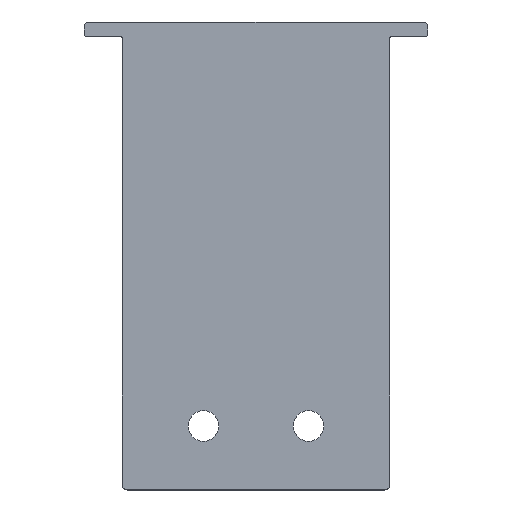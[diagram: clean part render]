
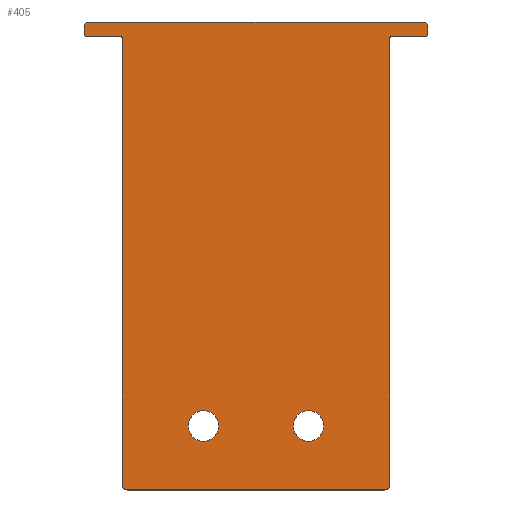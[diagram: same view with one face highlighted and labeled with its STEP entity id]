
A CAD part, top view. The second image highlights one B-rep face of the part: STEP entity #405.
In plain terms, the highlighted planar face has unit normal (0, 0, 1).
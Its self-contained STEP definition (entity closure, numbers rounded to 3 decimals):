
#31=PLANE('',#458);
#34=LINE('',#600,#66);
#38=LINE('',#612,#70);
#42=LINE('',#624,#74);
#46=LINE('',#636,#78);
#50=LINE('',#648,#82);
#54=LINE('',#660,#86);
#58=LINE('',#672,#90);
#62=LINE('',#684,#94);
#66=VECTOR('',#479,1000.);
#70=VECTOR('',#491,1000.);
#74=VECTOR('',#503,1000.);
#78=VECTOR('',#515,1000.);
#82=VECTOR('',#527,1000.);
#86=VECTOR('',#539,1000.);
#90=VECTOR('',#551,1000.);
#94=VECTOR('',#563,1000.);
#178=ORIENTED_EDGE('',*,*,#254,.F.);
#179=ORIENTED_EDGE('',*,*,#255,.F.);
#180=ORIENTED_EDGE('',*,*,#204,.T.);
#181=ORIENTED_EDGE('',*,*,#208,.T.);
#182=ORIENTED_EDGE('',*,*,#211,.T.);
#183=ORIENTED_EDGE('',*,*,#214,.T.);
#184=ORIENTED_EDGE('',*,*,#217,.T.);
#185=ORIENTED_EDGE('',*,*,#220,.T.);
#186=ORIENTED_EDGE('',*,*,#223,.T.);
#187=ORIENTED_EDGE('',*,*,#226,.T.);
#188=ORIENTED_EDGE('',*,*,#229,.T.);
#189=ORIENTED_EDGE('',*,*,#232,.T.);
#190=ORIENTED_EDGE('',*,*,#235,.T.);
#191=ORIENTED_EDGE('',*,*,#238,.T.);
#192=ORIENTED_EDGE('',*,*,#241,.T.);
#193=ORIENTED_EDGE('',*,*,#244,.T.);
#194=ORIENTED_EDGE('',*,*,#247,.T.);
#195=ORIENTED_EDGE('',*,*,#250,.T.);
#204=EDGE_CURVE('',#258,#259,#296,.T.);
#208=EDGE_CURVE('',#259,#262,#34,.T.);
#211=EDGE_CURVE('',#262,#264,#298,.T.);
#214=EDGE_CURVE('',#264,#266,#38,.T.);
#217=EDGE_CURVE('',#266,#268,#300,.T.);
#220=EDGE_CURVE('',#268,#270,#42,.T.);
#223=EDGE_CURVE('',#270,#272,#302,.T.);
#226=EDGE_CURVE('',#272,#274,#46,.T.);
#229=EDGE_CURVE('',#274,#276,#304,.T.);
#232=EDGE_CURVE('',#276,#278,#50,.T.);
#235=EDGE_CURVE('',#278,#280,#306,.T.);
#238=EDGE_CURVE('',#280,#282,#54,.T.);
#241=EDGE_CURVE('',#282,#284,#308,.T.);
#244=EDGE_CURVE('',#284,#286,#58,.T.);
#247=EDGE_CURVE('',#286,#288,#310,.T.);
#250=EDGE_CURVE('',#288,#258,#62,.T.);
#254=EDGE_CURVE('',#292,#292,#314,.T.);
#255=EDGE_CURVE('',#293,#293,#315,.T.);
#258=VERTEX_POINT('',#592);
#259=VERTEX_POINT('',#593);
#262=VERTEX_POINT('',#601);
#264=VERTEX_POINT('',#607);
#266=VERTEX_POINT('',#613);
#268=VERTEX_POINT('',#619);
#270=VERTEX_POINT('',#625);
#272=VERTEX_POINT('',#631);
#274=VERTEX_POINT('',#637);
#276=VERTEX_POINT('',#643);
#278=VERTEX_POINT('',#649);
#280=VERTEX_POINT('',#655);
#282=VERTEX_POINT('',#661);
#284=VERTEX_POINT('',#667);
#286=VERTEX_POINT('',#673);
#288=VERTEX_POINT('',#679);
#292=VERTEX_POINT('',#693);
#293=VERTEX_POINT('',#695);
#296=CIRCLE('',#424,0.5);
#298=CIRCLE('',#428,0.5);
#300=CIRCLE('',#432,0.2);
#302=CIRCLE('',#436,0.2);
#304=CIRCLE('',#440,0.5);
#306=CIRCLE('',#444,0.5);
#308=CIRCLE('',#448,0.2);
#310=CIRCLE('',#452,0.2);
#314=CIRCLE('',#459,1.6);
#315=CIRCLE('',#460,1.6);
#337=EDGE_LOOP('',(#178));
#338=EDGE_LOOP('',(#179));
#339=EDGE_LOOP('',(#180,#181,#182,#183,#184,#185,#186,#187,#188,#189,#190,
#191,#192,#193,#194,#195));
#367=FACE_BOUND('',#337,.T.);
#368=FACE_BOUND('',#338,.T.);
#369=FACE_BOUND('',#339,.T.);
#405=ADVANCED_FACE('',(#367,#368,#369),#31,.T.);
#424=AXIS2_PLACEMENT_3D('',#591,#471,#472);
#428=AXIS2_PLACEMENT_3D('',#606,#484,#485);
#432=AXIS2_PLACEMENT_3D('',#618,#496,#497);
#436=AXIS2_PLACEMENT_3D('',#630,#508,#509);
#440=AXIS2_PLACEMENT_3D('',#642,#520,#521);
#444=AXIS2_PLACEMENT_3D('',#654,#532,#533);
#448=AXIS2_PLACEMENT_3D('',#666,#544,#545);
#452=AXIS2_PLACEMENT_3D('',#678,#556,#557);
#458=AXIS2_PLACEMENT_3D('',#691,#571,#572);
#459=AXIS2_PLACEMENT_3D('',#692,#573,#574);
#460=AXIS2_PLACEMENT_3D('',#694,#575,#576);
#471=DIRECTION('',(0.,0.,1.));
#472=DIRECTION('',(1.,0.,0.));
#479=DIRECTION('',(-1.,0.,0.));
#484=DIRECTION('',(0.,0.,1.));
#485=DIRECTION('',(1.,0.,0.));
#491=DIRECTION('',(0.,-1.,0.));
#496=DIRECTION('',(0.,0.,1.));
#497=DIRECTION('',(1.,0.,0.));
#503=DIRECTION('',(1.,0.,0.));
#508=DIRECTION('',(0.,0.,-1.));
#509=DIRECTION('',(-1.,0.,0.));
#515=DIRECTION('',(0.,-1.,0.));
#520=DIRECTION('',(0.,0.,1.));
#521=DIRECTION('',(1.,0.,0.));
#527=DIRECTION('',(1.,0.,0.));
#532=DIRECTION('',(0.,0.,1.));
#533=DIRECTION('',(-1.,0.,0.));
#539=DIRECTION('',(0.,1.,0.));
#544=DIRECTION('',(0.,0.,-1.));
#545=DIRECTION('',(1.,0.,0.));
#551=DIRECTION('',(1.,0.,0.));
#556=DIRECTION('',(0.,0.,1.));
#557=DIRECTION('',(-1.,0.,0.));
#563=DIRECTION('',(0.,1.,0.));
#571=DIRECTION('',(0.,0.,1.));
#572=DIRECTION('',(1.,0.,0.));
#573=DIRECTION('',(0.,0.,1.));
#574=DIRECTION('',(1.,0.,0.));
#575=DIRECTION('',(0.,0.,1.));
#576=DIRECTION('',(1.,0.,0.));
#591=CARTESIAN_POINT('',(17.5,40.5,0.));
#592=CARTESIAN_POINT('',(18.,40.5,0.));
#593=CARTESIAN_POINT('',(17.5,41.,0.));
#600=CARTESIAN_POINT('',(17.5,41.,0.));
#601=CARTESIAN_POINT('',(-17.5,41.,0.));
#606=CARTESIAN_POINT('',(-17.5,40.5,0.));
#607=CARTESIAN_POINT('',(-18.,40.5,0.));
#612=CARTESIAN_POINT('',(-18.,40.5,0.));
#613=CARTESIAN_POINT('',(-18.,39.7,0.));
#618=CARTESIAN_POINT('',(-17.8,39.7,0.));
#619=CARTESIAN_POINT('',(-17.8,39.5,0.));
#624=CARTESIAN_POINT('',(-17.8,39.5,0.));
#625=CARTESIAN_POINT('',(-14.2,39.5,0.));
#630=CARTESIAN_POINT('',(-14.2,39.3,0.));
#631=CARTESIAN_POINT('',(-14.,39.3,0.));
#636=CARTESIAN_POINT('',(-14.,39.3,0.));
#637=CARTESIAN_POINT('',(-14.,-7.5,0.));
#642=CARTESIAN_POINT('',(-13.5,-7.5,0.));
#643=CARTESIAN_POINT('',(-13.5,-8.,0.));
#648=CARTESIAN_POINT('',(-13.5,-8.,0.));
#649=CARTESIAN_POINT('',(13.5,-8.,0.));
#654=CARTESIAN_POINT('',(13.5,-7.5,0.));
#655=CARTESIAN_POINT('',(14.,-7.5,0.));
#660=CARTESIAN_POINT('',(14.,-7.5,0.));
#661=CARTESIAN_POINT('',(14.,39.3,0.));
#666=CARTESIAN_POINT('',(14.2,39.3,0.));
#667=CARTESIAN_POINT('',(14.2,39.5,0.));
#672=CARTESIAN_POINT('',(14.2,39.5,0.));
#673=CARTESIAN_POINT('',(17.8,39.5,0.));
#678=CARTESIAN_POINT('',(17.8,39.7,0.));
#679=CARTESIAN_POINT('',(18.,39.7,0.));
#684=CARTESIAN_POINT('',(18.,39.7,0.));
#691=CARTESIAN_POINT('',(17.5,40.5,0.));
#692=CARTESIAN_POINT('',(5.5,-1.3,0.));
#693=CARTESIAN_POINT('',(7.1,-1.3,0.));
#694=CARTESIAN_POINT('',(-5.5,-1.3,0.));
#695=CARTESIAN_POINT('',(-3.9,-1.3,0.));
